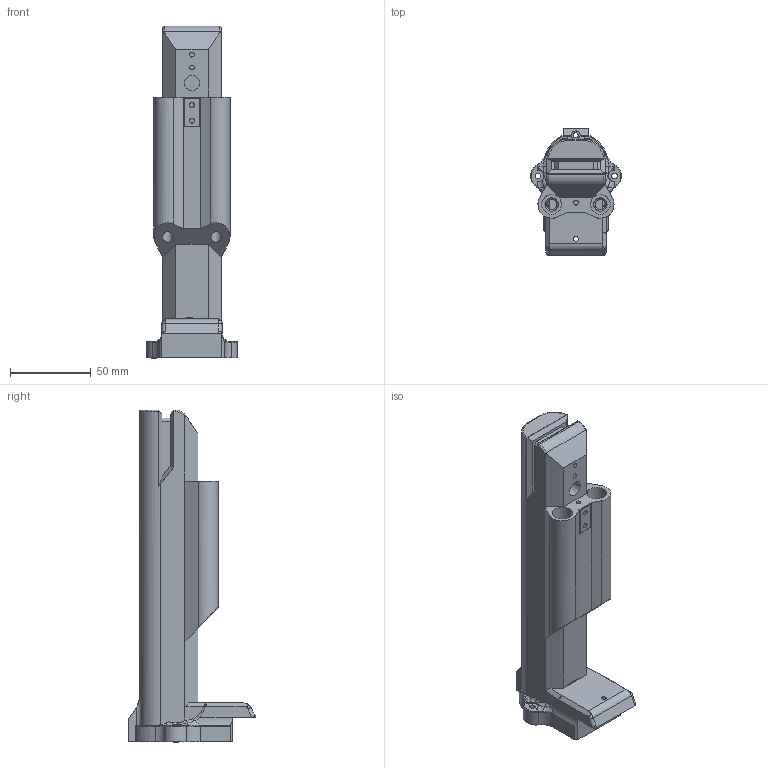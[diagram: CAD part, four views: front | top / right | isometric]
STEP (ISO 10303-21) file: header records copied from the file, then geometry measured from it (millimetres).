
FILE_DESCRIPTION(/* description */ (''),/* implementation_level */ '2;1');
FILE_NAME(/* name */ 'D:/Pew Pews/FGC-9_MkII_Stingray_Edition/Stingray Edition/.step files/3 - Buffer Tube and Stock/Buffer Tube/Buffer Tube.step',/* time_stamp */ '2022-05-12T09:46:00-06:00',/* author */ (''),/* organization */ (''),/* preprocessor_version */ 'ST-DEVELOPER v18.1',/* originating_system */ 'Autodesk Translation Framework v10.10.0.1391',/* authorisation */ '');
FILE_SCHEMA (('AUTOMOTIVE_DESIGN { 1 0 10303 214 3 1 1 }'));
Length unit declared in the file: millimetre
Products named in the file (1): Buffer Tube (2)
Bounding box: 56.18 x 78.96 x 205 mm (x, y, z)
Volume: 209477.6 mm3; surface area: 58906.9 mm2
Topology: 1 solids, 2 shells, 215 faces, 541 edges, 341 vertices
Faces by surface type: plane 102, cylinder 60, bspline 33, torus 17, cone 3
Full cylindrical faces by diameter (mm): 2.9 x4, 3 x4, 3.2 x1, 3.55 x2, 5.5 x1, 6.2 x2, 8.3 x2, 9.5 x1, 12.2 x2, 17.2 x1, 26 x1
Entity records: 8294 total; most frequent: CARTESIAN_POINT 3301, ORIENTED_EDGE 1078, DIRECTION 947, EDGE_CURVE 539, AXIS2_PLACEMENT_3D 344, VERTEX_POINT 341, LINE 259, VECTOR 259
